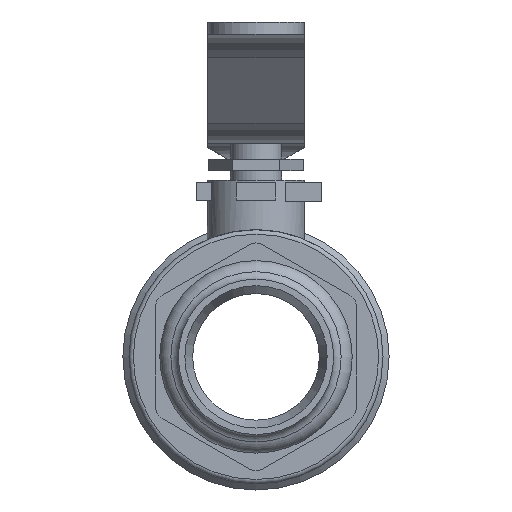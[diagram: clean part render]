
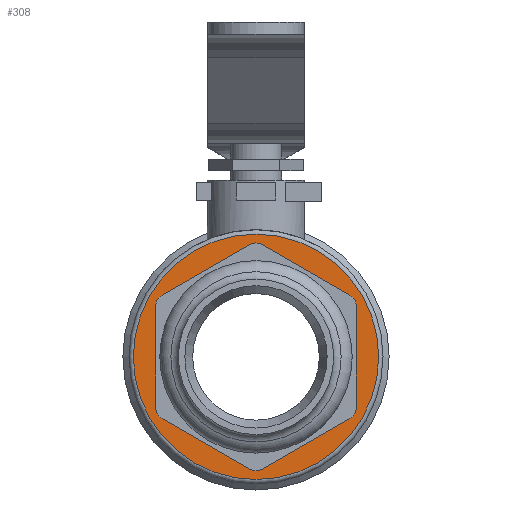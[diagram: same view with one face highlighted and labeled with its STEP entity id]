
A CAD part, left-side view. The second image highlights one B-rep face of the part: STEP entity #308.
In plain terms, the highlighted planar face has unit normal (-1, 0, 0).
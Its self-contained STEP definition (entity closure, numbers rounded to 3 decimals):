
#308=ADVANCED_FACE('',(#1096,#1097),#510,.T.);
#510=PLANE('',#3199);
#622=LINE('',#4484,#859);
#623=LINE('',#4487,#860);
#624=LINE('',#4489,#861);
#625=LINE('',#4491,#862);
#626=LINE('',#4493,#863);
#627=LINE('',#4495,#864);
#628=LINE('',#4497,#865);
#629=LINE('',#4499,#866);
#630=LINE('',#4501,#867);
#631=LINE('',#4503,#868);
#632=LINE('',#4505,#869);
#633=LINE('',#4507,#870);
#859=VECTOR('',#3550,1.);
#860=VECTOR('',#3551,1.);
#861=VECTOR('',#3552,1.);
#862=VECTOR('',#3553,1.);
#863=VECTOR('',#3554,1.);
#864=VECTOR('',#3555,1.);
#865=VECTOR('',#3556,1.);
#866=VECTOR('',#3557,1.);
#867=VECTOR('',#3558,1.);
#868=VECTOR('',#3559,1.);
#869=VECTOR('',#3560,1.);
#870=VECTOR('',#3561,1.);
#1096=FACE_BOUND('',#1297,.T.);
#1097=FACE_BOUND('',#1298,.T.);
#1297=EDGE_LOOP('',(#1602));
#1298=EDGE_LOOP('',(#1603,#1604,#1605,#1606,#1607,#1608,#1609,#1610,#1611,
#1612,#1613,#1614));
#1602=ORIENTED_EDGE('',*,*,#2667,.T.);
#1603=ORIENTED_EDGE('',*,*,#2668,.T.);
#1604=ORIENTED_EDGE('',*,*,#2669,.T.);
#1605=ORIENTED_EDGE('',*,*,#2670,.T.);
#1606=ORIENTED_EDGE('',*,*,#2671,.T.);
#1607=ORIENTED_EDGE('',*,*,#2672,.T.);
#1608=ORIENTED_EDGE('',*,*,#2673,.T.);
#1609=ORIENTED_EDGE('',*,*,#2674,.T.);
#1610=ORIENTED_EDGE('',*,*,#2675,.T.);
#1611=ORIENTED_EDGE('',*,*,#2676,.T.);
#1612=ORIENTED_EDGE('',*,*,#2677,.T.);
#1613=ORIENTED_EDGE('',*,*,#2678,.T.);
#1614=ORIENTED_EDGE('',*,*,#2679,.T.);
#2378=VERTEX_POINT('',#4483);
#2379=VERTEX_POINT('',#4485);
#2380=VERTEX_POINT('',#4486);
#2381=VERTEX_POINT('',#4488);
#2382=VERTEX_POINT('',#4490);
#2383=VERTEX_POINT('',#4492);
#2384=VERTEX_POINT('',#4494);
#2385=VERTEX_POINT('',#4496);
#2386=VERTEX_POINT('',#4498);
#2387=VERTEX_POINT('',#4500);
#2388=VERTEX_POINT('',#4502);
#2389=VERTEX_POINT('',#4504);
#2390=VERTEX_POINT('',#4506);
#2667=EDGE_CURVE('',#2378,#2378,#3055,.T.);
#2668=EDGE_CURVE('',#2379,#2380,#622,.T.);
#2669=EDGE_CURVE('',#2380,#2381,#623,.T.);
#2670=EDGE_CURVE('',#2381,#2382,#624,.T.);
#2671=EDGE_CURVE('',#2382,#2383,#625,.T.);
#2672=EDGE_CURVE('',#2383,#2384,#626,.T.);
#2673=EDGE_CURVE('',#2384,#2385,#627,.T.);
#2674=EDGE_CURVE('',#2385,#2386,#628,.T.);
#2675=EDGE_CURVE('',#2386,#2387,#629,.T.);
#2676=EDGE_CURVE('',#2387,#2388,#630,.T.);
#2677=EDGE_CURVE('',#2388,#2389,#631,.T.);
#2678=EDGE_CURVE('',#2389,#2390,#632,.T.);
#2679=EDGE_CURVE('',#2390,#2379,#633,.T.);
#3055=CIRCLE('',#3198,28.1);
#3198=AXIS2_PLACEMENT_3D('',#4482,#3548,#3549);
#3199=AXIS2_PLACEMENT_3D('',#4508,#3562,#3563);
#3548=DIRECTION('',(-1.,0.,0.));
#3549=DIRECTION('',(0.,0.,1.));
#3550=DIRECTION('',(0.,-1.,0.));
#3551=DIRECTION('',(0.,-0.866,-0.5));
#3552=DIRECTION('',(0.,-0.5,-0.866));
#3553=DIRECTION('',(0.,0.,-1.));
#3554=DIRECTION('',(0.,0.5,-0.866));
#3555=DIRECTION('',(0.,0.866,-0.5));
#3556=DIRECTION('',(0.,1.,0.));
#3557=DIRECTION('',(0.,0.866,0.5));
#3558=DIRECTION('',(0.,0.5,0.866));
#3559=DIRECTION('',(0.,0.,1.));
#3560=DIRECTION('',(0.,-0.5,0.866));
#3561=DIRECTION('',(0.,-0.866,0.5));
#3562=DIRECTION('',(-1.,0.,0.));
#3563=DIRECTION('',(0.,0.,1.));
#4482=CARTESIAN_POINT('',(-23.5,0.,0.));
#4483=CARTESIAN_POINT('',(-23.5,0.,28.1));
#4484=CARTESIAN_POINT('',(-23.5,2.165,24.962));
#4485=CARTESIAN_POINT('',(-23.5,2.165,24.962));
#4486=CARTESIAN_POINT('',(-23.5,-2.165,24.962));
#4487=CARTESIAN_POINT('',(-23.5,0.,26.212));
#4488=CARTESIAN_POINT('',(-23.5,-20.535,14.356));
#4489=CARTESIAN_POINT('',(-23.5,-20.535,14.356));
#4490=CARTESIAN_POINT('',(-23.5,-22.7,10.606));
#4491=CARTESIAN_POINT('',(-23.5,-22.7,13.106));
#4492=CARTESIAN_POINT('',(-23.5,-22.7,-10.606));
#4493=CARTESIAN_POINT('',(-23.5,-22.7,-10.606));
#4494=CARTESIAN_POINT('',(-23.5,-20.535,-14.356));
#4495=CARTESIAN_POINT('',(-23.5,-22.7,-13.106));
#4496=CARTESIAN_POINT('',(-23.5,-2.165,-24.962));
#4497=CARTESIAN_POINT('',(-23.5,-2.165,-24.962));
#4498=CARTESIAN_POINT('',(-23.5,2.165,-24.962));
#4499=CARTESIAN_POINT('',(-23.5,0.,-26.212));
#4500=CARTESIAN_POINT('',(-23.5,20.535,-14.356));
#4501=CARTESIAN_POINT('',(-23.5,20.535,-14.356));
#4502=CARTESIAN_POINT('',(-23.5,22.7,-10.606));
#4503=CARTESIAN_POINT('',(-23.5,22.7,-13.106));
#4504=CARTESIAN_POINT('',(-23.5,22.7,10.606));
#4505=CARTESIAN_POINT('',(-23.5,22.7,10.606));
#4506=CARTESIAN_POINT('',(-23.5,20.535,14.356));
#4507=CARTESIAN_POINT('',(-23.5,22.7,13.106));
#4508=CARTESIAN_POINT('',(-23.5,0.,0.));
